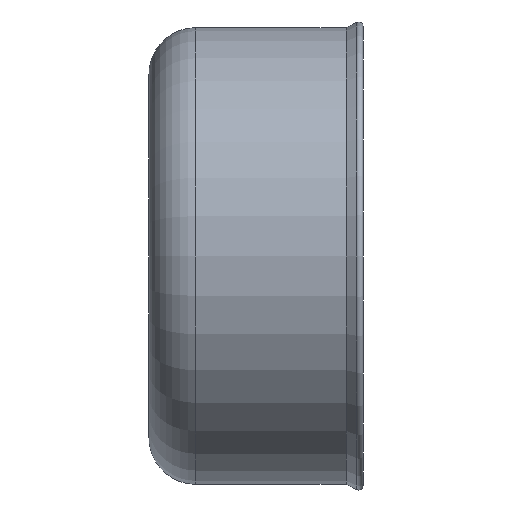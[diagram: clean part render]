
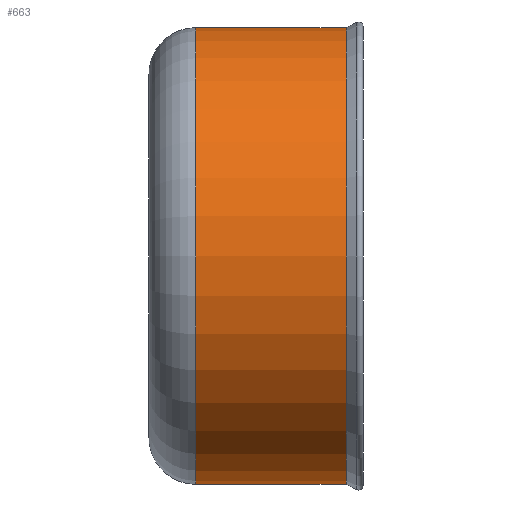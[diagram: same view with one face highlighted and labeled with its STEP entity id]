
A CAD part, left-side view. The second image highlights one B-rep face of the part: STEP entity #663.
In plain terms, the highlighted cylindrical face has radius 16.1 mm (diameter 32.2 mm), a partial arc.
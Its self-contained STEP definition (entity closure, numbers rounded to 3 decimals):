
#144 = CARTESIAN_POINT ( 'NONE',  ( -12.8, -1.4, 16.1 ) ) ;
#294 = VECTOR ( 'NONE', #887, 1000. ) ;
#305 = CIRCLE ( 'NONE', #308, 16.1 ) ;
#307 = CIRCLE ( 'NONE', #310, 16.1 ) ;
#308 = AXIS2_PLACEMENT_3D ( 'NONE', #894, #895, #896 ) ;
#310 = AXIS2_PLACEMENT_3D ( 'NONE', #899, #900, #901 ) ;
#328 = AXIS2_PLACEMENT_3D ( 'NONE', #940, #942, #780 ) ;
#446 = EDGE_CURVE ( 'NONE', #1268, #1219, #1474, .T. ) ;
#583 = EDGE_LOOP ( 'NONE', ( #706, #707, #708, #709 ) ) ;
#646 = EDGE_CURVE ( 'NONE', #1222, #1224, #885, .T. ) ;
#649 = EDGE_CURVE ( 'NONE', #1224, #1219, #305, .T. ) ;
#650 = EDGE_CURVE ( 'NONE', #1268, #1222, #307, .T. ) ;
#663 = ADVANCED_FACE ( 'NONE', ( #778 ), #945, .T. ) ;
#706 = ORIENTED_EDGE ( 'NONE', *, *, #646, .T. ) ;
#707 = ORIENTED_EDGE ( 'NONE', *, *, #649, .T. ) ;
#708 = ORIENTED_EDGE ( 'NONE', *, *, #446, .F. ) ;
#709 = ORIENTED_EDGE ( 'NONE', *, *, #650, .T. ) ;
#778 = FACE_OUTER_BOUND ( 'NONE', #583, .T. ) ;
#780 = DIRECTION ( 'NONE',  ( 0., 0., -1. ) ) ;
#885 = LINE ( 'NONE', #886, #294 ) ;
#886 = CARTESIAN_POINT ( 'NONE',  ( -12.8, 19.2, -16.1 ) ) ;
#887 = DIRECTION ( 'NONE',  ( 0., -1., 0. ) ) ;
#894 = CARTESIAN_POINT ( 'NONE',  ( -12.8, -12., 0. ) ) ;
#895 = DIRECTION ( 'NONE',  ( 0., 1., 0. ) ) ;
#896 = DIRECTION ( 'NONE',  ( 0., 0., 1. ) ) ;
#899 = CARTESIAN_POINT ( 'NONE',  ( -12.8, -1.4, 0. ) ) ;
#900 = DIRECTION ( 'NONE',  ( 0., -1., 0. ) ) ;
#901 = DIRECTION ( 'NONE',  ( 1., 0., 0. ) ) ;
#940 = CARTESIAN_POINT ( 'NONE',  ( -12.8, 19.2, 0. ) ) ;
#942 = DIRECTION ( 'NONE',  ( 0., -1., 0. ) ) ;
#945 = CYLINDRICAL_SURFACE ( 'NONE', #328, 16.1 ) ;
#1121 = CARTESIAN_POINT ( 'NONE',  ( -12.8, -12., 16.1 ) ) ;
#1124 = CARTESIAN_POINT ( 'NONE',  ( -12.8, -1.4, -16.1 ) ) ;
#1126 = CARTESIAN_POINT ( 'NONE',  ( -12.8, -12., -16.1 ) ) ;
#1219 = VERTEX_POINT ( 'NONE', #1121 ) ;
#1222 = VERTEX_POINT ( 'NONE', #1124 ) ;
#1224 = VERTEX_POINT ( 'NONE', #1126 ) ;
#1268 = VERTEX_POINT ( 'NONE', #144 ) ;
#1292 = VECTOR ( 'NONE', #1477, 1000. ) ;
#1474 = LINE ( 'NONE', #1476, #1292 ) ;
#1476 = CARTESIAN_POINT ( 'NONE',  ( -12.8, 19.2, 16.1 ) ) ;
#1477 = DIRECTION ( 'NONE',  ( 0., -1., 0. ) ) ;
